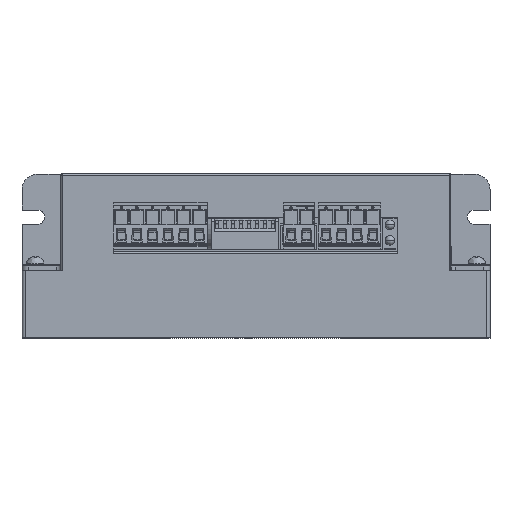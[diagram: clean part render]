
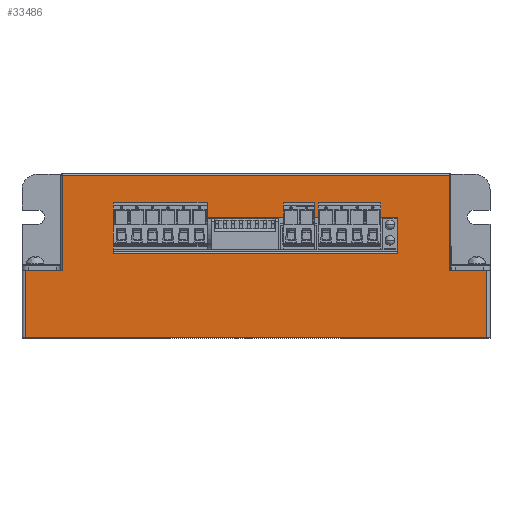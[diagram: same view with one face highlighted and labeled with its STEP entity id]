
A CAD part, top view. The second image highlights one B-rep face of the part: STEP entity #33486.
In plain terms, the highlighted planar face has unit normal (0, 0, 1).
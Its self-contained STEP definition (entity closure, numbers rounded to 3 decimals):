
#7264=DIRECTION('',(0.,1.,0.));
#7265=VECTOR('',#7264,11.25);
#7266=CARTESIAN_POINT('',(-42.768,10.5,46.831));
#7267=LINE('',#7266,#7265);
#7276=CARTESIAN_POINT('',(-42.518,21.75,46.831));
#7277=DIRECTION('',(0.,0.,-1.));
#7278=DIRECTION('',(-1.,0.,0.));
#7279=AXIS2_PLACEMENT_3D('',#7276,#7277,#7278);
#7281=CARTESIAN_POINT('',(48.222,21.75,46.831));
#7282=DIRECTION('',(0.,0.,-1.));
#7283=DIRECTION('',(0.,1.,0.));
#7284=AXIS2_PLACEMENT_3D('',#7281,#7282,#7283);
#7286=DIRECTION('',(-1.,0.,0.));
#7287=VECTOR('',#7286,12.);
#7288=CARTESIAN_POINT('',(-59.028,5.,46.831));
#7289=LINE('',#7288,#7287);
#7290=DIRECTION('',(-1.,0.,0.));
#7291=VECTOR('',#7290,12.);
#7292=CARTESIAN_POINT('',(76.972,5.,46.831));
#7293=LINE('',#7292,#7291);
#7294=DIRECTION('',(1.,0.,0.));
#7295=VECTOR('',#7294,148.);
#7296=CARTESIAN_POINT('',(-71.028,-16.6,46.831));
#7297=LINE('',#7296,#7295);
#7298=DIRECTION('',(1.,0.,0.));
#7299=VECTOR('',#7298,90.74);
#7300=CARTESIAN_POINT('',(-42.518,22.,46.831));
#7301=LINE('',#7300,#7299);
#7314=DIRECTION('',(0.,-1.,0.));
#7315=VECTOR('',#7314,11.25);
#7316=CARTESIAN_POINT('',(48.472,21.75,46.831));
#7317=LINE('',#7316,#7315);
#7326=DIRECTION('',(1.,0.,0.));
#7327=VECTOR('',#7326,91.24);
#7328=CARTESIAN_POINT('',(-42.768,10.5,46.831));
#7329=LINE('',#7328,#7327);
#7350=DIRECTION('',(0.,-1.,0.));
#7351=VECTOR('',#7350,30.5);
#7352=CARTESIAN_POINT('',(-59.028,35.5,46.831));
#7353=LINE('',#7352,#7351);
#7400=DIRECTION('',(-1.,0.,0.));
#7401=VECTOR('',#7400,124.);
#7402=CARTESIAN_POINT('',(64.972,35.5,46.831));
#7403=LINE('',#7402,#7401);
#7408=DIRECTION('',(0.,1.,0.));
#7409=VECTOR('',#7408,30.5);
#7410=CARTESIAN_POINT('',(64.972,5.,46.831));
#7411=LINE('',#7410,#7409);
#8992=DIRECTION('',(0.,-1.,0.));
#8993=VECTOR('',#8992,21.6);
#8994=CARTESIAN_POINT('',(-71.028,5.,46.831));
#8995=LINE('',#8994,#8993);
#8996=DIRECTION('',(0.,1.,0.));
#8997=VECTOR('',#8996,21.6);
#8998=CARTESIAN_POINT('',(76.972,-16.6,46.831));
#8999=LINE('',#8998,#8997);
#17261=CARTESIAN_POINT('',(64.972,35.5,46.831));
#17263=VERTEX_POINT('',#17261);
#17264=CARTESIAN_POINT('',(-59.028,35.5,46.831));
#17265=VERTEX_POINT('',#17264);
#17266=CARTESIAN_POINT('',(-42.518,22.,46.831));
#17267=CARTESIAN_POINT('',(48.222,22.,46.831));
#17268=VERTEX_POINT('',#17266);
#17269=VERTEX_POINT('',#17267);
#17270=CARTESIAN_POINT('',(-42.768,10.5,46.831));
#17271=CARTESIAN_POINT('',(-42.768,21.75,46.831));
#17272=VERTEX_POINT('',#17270);
#17273=VERTEX_POINT('',#17271);
#17274=CARTESIAN_POINT('',(48.472,10.5,46.831));
#17275=VERTEX_POINT('',#17274);
#17276=CARTESIAN_POINT('',(48.472,21.75,46.831));
#17277=VERTEX_POINT('',#17276);
#17802=CARTESIAN_POINT('',(76.972,-16.6,46.831));
#17803=VERTEX_POINT('',#17802);
#17804=CARTESIAN_POINT('',(-71.028,-16.6,46.831));
#17805=VERTEX_POINT('',#17804);
#17982=CARTESIAN_POINT('',(-71.028,5.,46.831));
#17983=VERTEX_POINT('',#17982);
#17984=CARTESIAN_POINT('',(76.972,5.,46.831));
#17985=VERTEX_POINT('',#17984);
#19857=CARTESIAN_POINT('',(64.972,5.,46.831));
#19858=VERTEX_POINT('',#19857);
#19859=CARTESIAN_POINT('',(-59.028,5.,46.831));
#19861=VERTEX_POINT('',#19859);
#33453=CARTESIAN_POINT('',(2.972,-5.8,46.831));
#33454=DIRECTION('',(0.,0.,1.));
#33455=DIRECTION('',(1.,0.,0.));
#33456=AXIS2_PLACEMENT_3D('',#33453,#33454,#33455);
#33457=PLANE('',#33456);
#33458=ORIENTED_EDGE('',*,*,#31319,.F.);
#33460=ORIENTED_EDGE('',*,*,#33459,.F.);
#33462=ORIENTED_EDGE('',*,*,#33461,.F.);
#33464=ORIENTED_EDGE('',*,*,#33463,.F.);
#33465=ORIENTED_EDGE('',*,*,#31292,.F.);
#33467=ORIENTED_EDGE('',*,*,#33466,.F.);
#33469=ORIENTED_EDGE('',*,*,#33468,.F.);
#33471=ORIENTED_EDGE('',*,*,#33470,.F.);
#33472=EDGE_LOOP('',(#33458,#33460,#33462,#33464,#33465,#33467,#33469,#33471));
#33473=FACE_OUTER_BOUND('',#33472,.F.);
#33475=ORIENTED_EDGE('',*,*,#33474,.F.);
#33476=ORIENTED_EDGE('',*,*,#33445,.F.);
#33477=ORIENTED_EDGE('',*,*,#33427,.F.);
#33479=ORIENTED_EDGE('',*,*,#33478,.T.);
#33481=ORIENTED_EDGE('',*,*,#33480,.F.);
#33483=ORIENTED_EDGE('',*,*,#33482,.F.);
#33484=EDGE_LOOP('',(#33475,#33476,#33477,#33479,#33481,#33483));
#33485=FACE_BOUND('',#33484,.F.);
#33486=ADVANCED_FACE('',(#33473,#33485),#33457,.T.);
#7280=CIRCLE('',#7279,0.25);
#7285=CIRCLE('',#7284,0.25);
#31292=EDGE_CURVE('',#17985,#19858,#7293,.T.);
#31319=EDGE_CURVE('',#19861,#17983,#7289,.T.);
#33427=EDGE_CURVE('',#17272,#17273,#7267,.T.);
#33445=EDGE_CURVE('',#17273,#17268,#7280,.T.);
#33459=EDGE_CURVE('',#17265,#19861,#7353,.T.);
#33461=EDGE_CURVE('',#17263,#17265,#7403,.T.);
#33463=EDGE_CURVE('',#19858,#17263,#7411,.T.);
#33466=EDGE_CURVE('',#17803,#17985,#8999,.T.);
#33468=EDGE_CURVE('',#17805,#17803,#7297,.T.);
#33470=EDGE_CURVE('',#17983,#17805,#8995,.T.);
#33474=EDGE_CURVE('',#17268,#17269,#7301,.T.);
#33478=EDGE_CURVE('',#17272,#17275,#7329,.T.);
#33480=EDGE_CURVE('',#17277,#17275,#7317,.T.);
#33482=EDGE_CURVE('',#17269,#17277,#7285,.T.);
